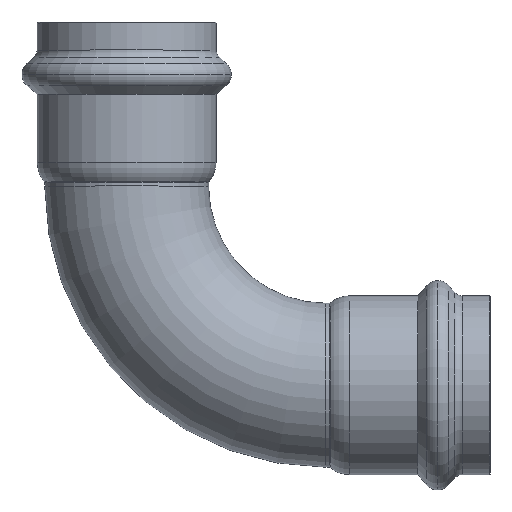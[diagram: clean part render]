
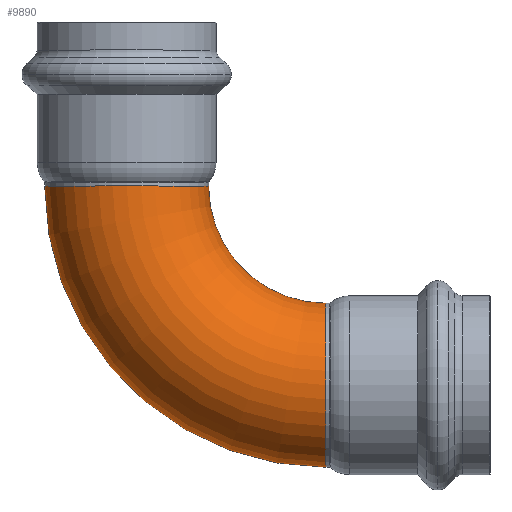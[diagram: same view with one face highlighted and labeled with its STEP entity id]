
A CAD part, top view. The second image highlights one B-rep face of the part: STEP entity #9890.
In plain terms, the highlighted toroidal (fillet/blend) face has major radius 51 mm and minor radius 21 mm.
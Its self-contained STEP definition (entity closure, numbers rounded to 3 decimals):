
#10=CARTESIAN_POINT('',(82.006,36.052,0.));
#20=DIRECTION('',(0.,0.,1.));
#30=DIRECTION('',(-1.,0.,0.));
#40=AXIS2_PLACEMENT_3D('',#10,#20,#30);
#50=TOROIDAL_SURFACE('',#40,51.,21.);
#60=CARTESIAN_POINT('',(82.006,-14.948,0.));
#70=DIRECTION('',(1.,0.,0.));
#80=DIRECTION('',(0.,1.,0.));
#90=AXIS2_PLACEMENT_3D('',#60,#70,#80);
#100=CIRCLE('',#90,21.);
#130=CARTESIAN_POINT('',(82.006,6.052,0.));
#140=VERTEX_POINT('',#130);
#170=CARTESIAN_POINT('',(82.006,36.052,0.));
#180=DIRECTION('',(0.,0.,1.));
#190=DIRECTION('',(-1.,0.,0.));
#200=AXIS2_PLACEMENT_3D('',#170,#180,#190);
#210=CIRCLE('',#200,30.);
#220=CARTESIAN_POINT('',(52.006,36.052,0.));
#230=VERTEX_POINT('',#220);
#240=EDGE_CURVE('',#230,#140,#210,.T.);
#350=CARTESIAN_POINT('',(10.006,36.052,0.)
);
#360=VERTEX_POINT('',#350);
#390=CARTESIAN_POINT('',(82.006,36.052,0.)
);
#400=DIRECTION('',(0.,0.,1.));
#410=DIRECTION('',(-1.,0.,0.));
#420=AXIS2_PLACEMENT_3D('',#390,#400,#410);
#430=CIRCLE('',#420,72.);
#440=CARTESIAN_POINT('',(82.006,-35.948,0.
));
#450=VERTEX_POINT('',#440);
#460=EDGE_CURVE('',#360,#450,#430,.T.);
#1460=EDGE_CURVE('',#140,#450,#100,.T.);
#9770=ORIENTED_EDGE('',*,*,#1460,.F.);
#9780=ORIENTED_EDGE('',*,*,#460,.T.);
#9790=CARTESIAN_POINT('',(31.006,36.052,0.));
#9800=DIRECTION('',(0.,-1.,0.));
#9810=DIRECTION('',(1.,0.,0.));
#9820=AXIS2_PLACEMENT_3D('',#9790,#9800,#9810);
#9830=CIRCLE('',#9820,21.);
#9840=EDGE_CURVE('',#230,#360,#9830,.T.);
#9850=ORIENTED_EDGE('',*,*,#9840,.T.);
#9860=ORIENTED_EDGE('',*,*,#240,.F.);
#9870=EDGE_LOOP('',(#9860,#9850,#9780,#9770));
#9880=FACE_OUTER_BOUND('',#9870,.T.);
#9890=ADVANCED_FACE('',(#9880),#50,.T.);
